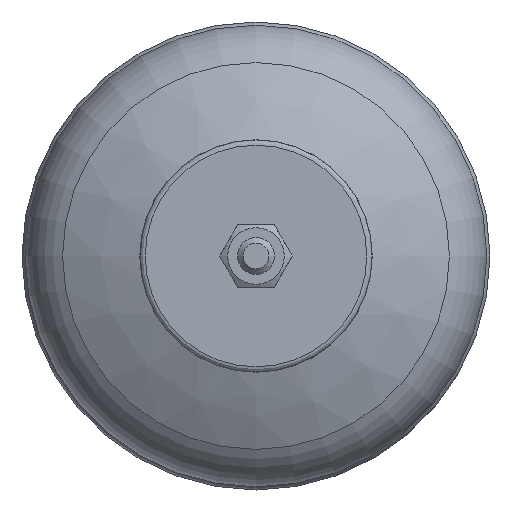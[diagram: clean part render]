
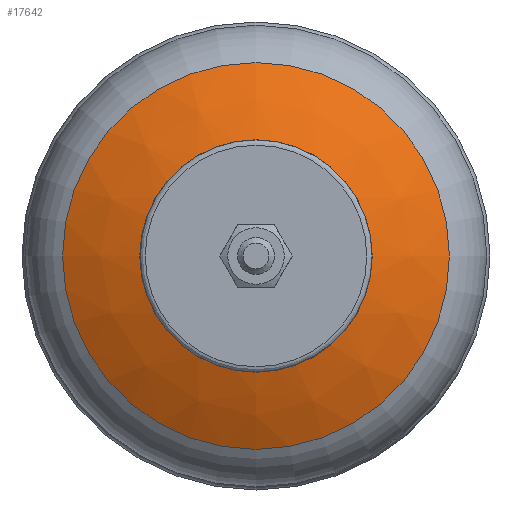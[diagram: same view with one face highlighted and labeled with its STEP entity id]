
A CAD part, front view. The second image highlights one B-rep face of the part: STEP entity #17642.
In plain terms, the highlighted free-form (B-spline) face has degree [2, 2] with [3, 9] control points.
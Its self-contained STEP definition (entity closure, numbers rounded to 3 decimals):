
#19=(
BOUNDED_SURFACE()
B_SPLINE_SURFACE(2,2,((#38255,#38256,#38257,#38258,#38259,#38260,#38261,
#38262,#38263),(#38264,#38265,#38266,#38267,#38268,#38269,#38270,#38271,
#38272),(#38273,#38274,#38275,#38276,#38277,#38278,#38279,#38280,#38281)),
 .UNSPECIFIED.,.F.,.T.,.F.)
B_SPLINE_SURFACE_WITH_KNOTS((3,3),(3,2,2,2,3),(-1.272,-1.054),
(-3.142,-1.571,0.,1.571,3.142),
 .UNSPECIFIED.)
GEOMETRIC_REPRESENTATION_ITEM()
RATIONAL_B_SPLINE_SURFACE(((1.,0.707,1.,0.707,1.,
0.707,1.,0.707,1.),(0.994,0.703,
0.994,0.703,0.994,0.703,
0.994,0.703,0.994),(1.,0.707,
1.,0.707,1.,0.707,1.,0.707,1.)))
REPRESENTATION_ITEM('')
SURFACE()
);
#33=(
BOUNDED_CURVE()
B_SPLINE_CURVE(2,(#38286,#38287,#38288),.UNSPECIFIED.,.F.,.F.)
B_SPLINE_CURVE_WITH_KNOTS((3,3),(1.054,1.272),
 .UNSPECIFIED.)
CURVE()
GEOMETRIC_REPRESENTATION_ITEM()
RATIONAL_B_SPLINE_CURVE((1.,0.994,1.))
REPRESENTATION_ITEM('')
);
#1192=CIRCLE('',#18869,31.437);
#1193=CIRCLE('',#18870,31.437);
#1214=CIRCLE('',#18925,52.382);
#1215=CIRCLE('',#18926,52.382);
#5093=FACE_OUTER_BOUND('',#6175,.T.);
#6175=EDGE_LOOP('',(#16480,#16481,#16482,#16483,#16484,#16485));
#8644=VERTEX_POINT('',#37944);
#8645=VERTEX_POINT('',#37945);
#8685=VERTEX_POINT('',#38282);
#8686=VERTEX_POINT('',#38283);
#11250=EDGE_CURVE('',#8644,#8645,#1192,.T.);
#11251=EDGE_CURVE('',#8645,#8644,#1193,.T.);
#11303=EDGE_CURVE('',#8685,#8686,#1214,.T.);
#11304=EDGE_CURVE('',#8686,#8685,#1215,.T.);
#11305=EDGE_CURVE('',#8686,#8645,#33,.T.);
#16480=ORIENTED_EDGE('',*,*,#11303,.F.);
#16481=ORIENTED_EDGE('',*,*,#11304,.F.);
#16482=ORIENTED_EDGE('',*,*,#11305,.T.);
#16483=ORIENTED_EDGE('',*,*,#11251,.T.);
#16484=ORIENTED_EDGE('',*,*,#11250,.T.);
#16485=ORIENTED_EDGE('',*,*,#11305,.F.);
#17642=ADVANCED_FACE('',(#5093),#19,.F.);
#18869=AXIS2_PLACEMENT_3D('',#37946,#22560,#22561);
#18870=AXIS2_PLACEMENT_3D('',#37947,#22562,#22563);
#18925=AXIS2_PLACEMENT_3D('',#38284,#22684,#22685);
#18926=AXIS2_PLACEMENT_3D('',#38285,#22686,#22687);
#22560=DIRECTION('center_axis',(0.,1.,0.));
#22561=DIRECTION('ref_axis',(0.,0.,-1.));
#22562=DIRECTION('center_axis',(0.,1.,0.));
#22563=DIRECTION('ref_axis',(0.,0.,-1.));
#22684=DIRECTION('center_axis',(0.,1.,0.));
#22685=DIRECTION('ref_axis',(-1.,0.,0.));
#22686=DIRECTION('center_axis',(0.,1.,0.));
#22687=DIRECTION('ref_axis',(-1.,0.,0.));
#37944=CARTESIAN_POINT('',(31.437,0.661,0.));
#37945=CARTESIAN_POINT('',(0.,0.661,-31.437));
#37946=CARTESIAN_POINT('Origin',(0.,0.661,0.));
#37947=CARTESIAN_POINT('Origin',(0.,0.661,0.));
#38255=CARTESIAN_POINT('Ctrl Pts',(0.,0.661,-31.437));
#38256=CARTESIAN_POINT('Ctrl Pts',(-31.437,0.661,
-31.437));
#38257=CARTESIAN_POINT('Ctrl Pts',(-31.437,0.661,
0.));
#38258=CARTESIAN_POINT('Ctrl Pts',(-31.437,0.661,
31.437));
#38259=CARTESIAN_POINT('Ctrl Pts',(0.,0.661,31.437));
#38260=CARTESIAN_POINT('Ctrl Pts',(31.437,0.661,31.437));
#38261=CARTESIAN_POINT('Ctrl Pts',(31.437,0.661,0.));
#38262=CARTESIAN_POINT('Ctrl Pts',(31.437,0.661,-31.437));
#38263=CARTESIAN_POINT('Ctrl Pts',(0.,0.661,-31.437));
#38264=CARTESIAN_POINT('Ctrl Pts',(0.,4.042,-42.404));
#38265=CARTESIAN_POINT('Ctrl Pts',(-42.404,4.042,-42.404));
#38266=CARTESIAN_POINT('Ctrl Pts',(-42.404,4.042,0.));
#38267=CARTESIAN_POINT('Ctrl Pts',(-42.404,4.042,42.404));
#38268=CARTESIAN_POINT('Ctrl Pts',(0.,4.042,42.404));
#38269=CARTESIAN_POINT('Ctrl Pts',(42.404,4.042,42.404));
#38270=CARTESIAN_POINT('Ctrl Pts',(42.404,4.042,0.));
#38271=CARTESIAN_POINT('Ctrl Pts',(42.404,4.042,-42.404));
#38272=CARTESIAN_POINT('Ctrl Pts',(0.,4.042,-42.404));
#38273=CARTESIAN_POINT('Ctrl Pts',(0.,9.714,-52.382));
#38274=CARTESIAN_POINT('Ctrl Pts',(-52.382,9.714,-52.382));
#38275=CARTESIAN_POINT('Ctrl Pts',(-52.382,9.714,0.));
#38276=CARTESIAN_POINT('Ctrl Pts',(-52.382,9.714,52.382));
#38277=CARTESIAN_POINT('Ctrl Pts',(0.,9.714,52.382));
#38278=CARTESIAN_POINT('Ctrl Pts',(52.382,9.714,52.382));
#38279=CARTESIAN_POINT('Ctrl Pts',(52.382,9.714,0.));
#38280=CARTESIAN_POINT('Ctrl Pts',(52.382,9.714,-52.382));
#38281=CARTESIAN_POINT('Ctrl Pts',(0.,9.714,-52.382));
#38282=CARTESIAN_POINT('',(-52.382,9.714,0.));
#38283=CARTESIAN_POINT('',(0.,9.714,-52.382));
#38284=CARTESIAN_POINT('Origin',(0.,9.714,0.));
#38285=CARTESIAN_POINT('Origin',(0.,9.714,0.));
#38286=CARTESIAN_POINT('Ctrl Pts',(0.,9.714,-52.382));
#38287=CARTESIAN_POINT('Ctrl Pts',(0.,4.042,-42.404));
#38288=CARTESIAN_POINT('Ctrl Pts',(0.,0.661,-31.437));
